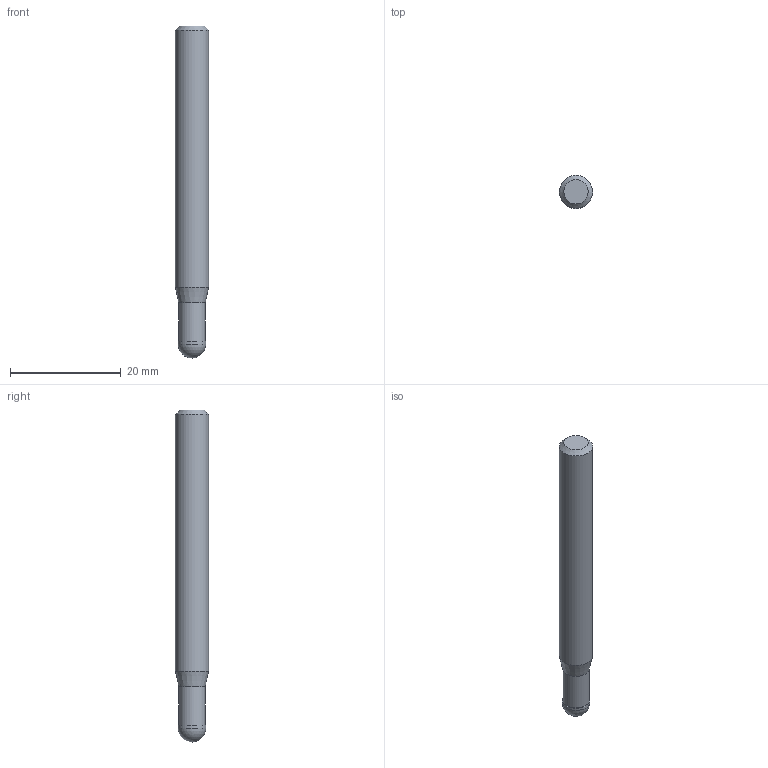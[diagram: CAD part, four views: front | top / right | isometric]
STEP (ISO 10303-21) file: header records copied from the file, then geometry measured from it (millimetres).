
FILE_DESCRIPTION((''),'2;1');
FILE_NAME('C:\Users\nsx150\AppData\Local\Temp\Mastercam 2021\LJSIDMOTM8\TEMP.step','2021-08-03T14:23:20',(''),(''),'STEP Write','Mastercam 2021 ... CNC Software, Inc.','');
FILE_SCHEMA(('AUTOMOTIVE_DESIGN'));
Length unit declared in the file: millimetre
Products named in the file (1): None
Bounding box: 6 x 6 x 60 mm (x, y, z)
Volume: 1562.5 mm3; surface area: 1147.2 mm2
Topology: 2 solids, 2 shells, 9 faces, 14 edges, 8 vertices
Faces by surface type: plane 3, cylinder 3, cone 2, sphere 1
Full cylindrical faces by diameter (mm): 4.8 x1, 5 x1, 6 x1
Entity records: 211 total; most frequent: DIRECTION 36, CARTESIAN_POINT 25, AXIS2_PLACEMENT_3D 18, ORIENTED_EDGE 14, EDGE_LOOP 14, STYLED_ITEM 12, ADVANCED_FACE 9, FACE_BOUND 8
